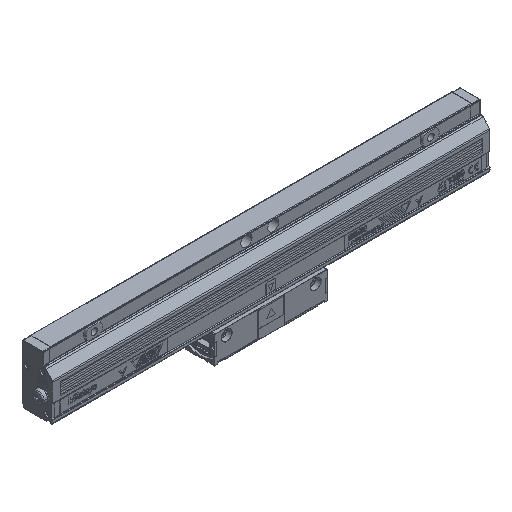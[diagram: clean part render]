
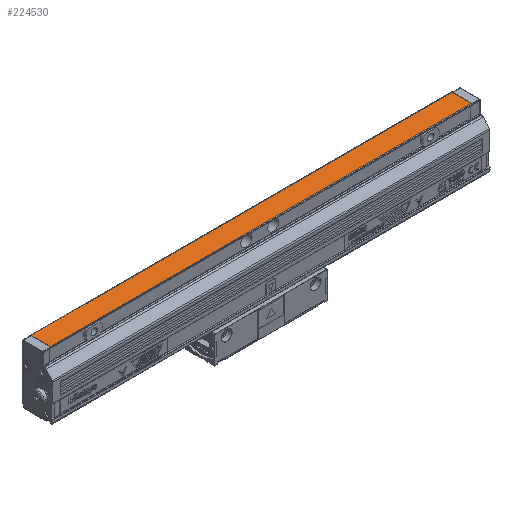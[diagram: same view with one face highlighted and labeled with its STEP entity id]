
A CAD part, isometric view. The second image highlights one B-rep face of the part: STEP entity #224530.
In plain terms, the highlighted planar face has unit normal (0, 0, 1).
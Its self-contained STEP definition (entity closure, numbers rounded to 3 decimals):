
#103320=CARTESIAN_POINT('',(166.6,44.4,16.5));
#103330=VERTEX_POINT('',#103320);
#103360=CARTESIAN_POINT('',(166.6,44.4,16.5));
#103370=DIRECTION('',(0.,1.,0.));
#103380=VECTOR('',#103370,1.);
#103390=LINE('',#103360,#103380);
#103400=CARTESIAN_POINT('',(166.6,58.8,16.5));
#103410=VERTEX_POINT('',#103400);
#103420=EDGE_CURVE('',#103330,#103410,#103390,.T.);
#210500=CARTESIAN_POINT('',(-146.4,58.8,16.5));
#210510=VERTEX_POINT('',#210500);
#210540=CARTESIAN_POINT('',(-146.4,44.4,16.5));
#210550=DIRECTION('',(0.,1.,0.));
#210560=VECTOR('',#210550,1.);
#210570=LINE('',#210540,#210560);
#210580=CARTESIAN_POINT('',(-146.4,44.4,16.5));
#210590=VERTEX_POINT('',#210580);
#210600=EDGE_CURVE('',#210590,#210510,#210570,.T.);
#211640=CARTESIAN_POINT('',(116.6,44.4,16.5));
#211650=DIRECTION('',(-1.,0.,0.));
#211660=VECTOR('',#211650,1.);
#211670=LINE('',#211640,#211660);
#211680=EDGE_CURVE('',#103330,#210590,#211670,.T.);
#223380=CARTESIAN_POINT('',(116.6,58.8,16.5));
#223390=DIRECTION('',(-1.,0.,0.));
#223400=VECTOR('',#223390,1.);
#223410=LINE('',#223380,#223400);
#223420=EDGE_CURVE('',#103410,#210510,#223410,.T.);
#224420=CARTESIAN_POINT('',(116.6,44.4,16.5));
#224430=DIRECTION('',(-0.,-0.,-1.));
#224440=DIRECTION('',(0.,-1.,0.));
#224450=AXIS2_PLACEMENT_3D('',#224420,#224430,#224440);
#224460=PLANE('',#224450);
#224470=ORIENTED_EDGE('',*,*,#103420,.T.);
#224480=ORIENTED_EDGE('',*,*,#211680,.F.);
#224490=ORIENTED_EDGE('',*,*,#210600,.F.);
#224500=ORIENTED_EDGE('',*,*,#223420,.T.);
#224510=EDGE_LOOP('',(#224500,#224490,#224480,#224470));
#224520=FACE_OUTER_BOUND('',#224510,.T.);
#224530=ADVANCED_FACE('',(#224520),#224460,.F.);
